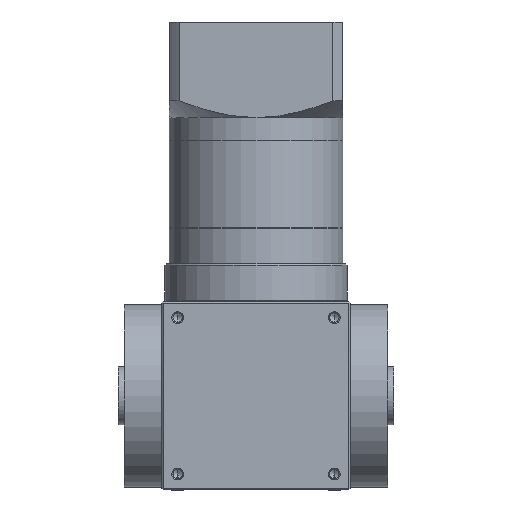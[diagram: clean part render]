
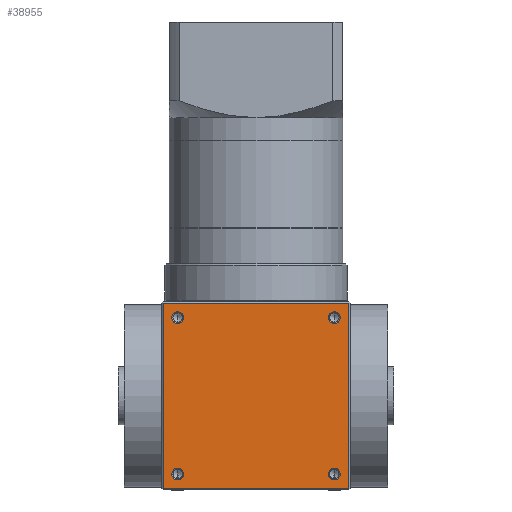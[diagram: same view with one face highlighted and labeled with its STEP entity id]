
A CAD part, front view. The second image highlights one B-rep face of the part: STEP entity #38955.
In plain terms, the highlighted planar face has unit normal (0, -1, 0).
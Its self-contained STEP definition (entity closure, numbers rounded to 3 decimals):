
#301 = DIRECTION ( 'NONE',  ( 0., -1., 0. ) ) ;
#350 = AXIS2_PLACEMENT_3D ( 'NONE', #36476, #10524, #40832 ) ;
#1182 = AXIS2_PLACEMENT_3D ( 'NONE', #26126, #301, #30535 ) ;
#2743 = CARTESIAN_POINT ( 'NONE',  ( 27., -32.5, 5.5 ) ) ;
#3963 = FACE_BOUND ( 'NONE', #46195, .T. ) ;
#4203 = VECTOR ( 'NONE', #51095, 1000. ) ;
#4564 = CARTESIAN_POINT ( 'NONE',  ( -27., -32.5, 59.5 ) ) ;
#4984 = CARTESIAN_POINT ( 'NONE',  ( 32., -32.5, 64.5 ) ) ;
#5966 = ORIENTED_EDGE ( 'NONE', *, *, #50379, .F. ) ;
#6260 = LINE ( 'NONE', #18508, #46272 ) ;
#6517 = CIRCLE ( 'NONE', #41210, 2.025 ) ;
#7045 = DIRECTION ( 'NONE',  ( 0., 0., -1. ) ) ;
#7171 = AXIS2_PLACEMENT_3D ( 'NONE', #43076, #17044, #47515 ) ;
#7705 = ORIENTED_EDGE ( 'NONE', *, *, #13158, .F. ) ;
#7761 = EDGE_CURVE ( 'NONE', #41068, #8871, #44101, .T. ) ;
#8249 = CARTESIAN_POINT ( 'NONE',  ( -32., -32.5, 65. ) ) ;
#8851 = DIRECTION ( 'NONE',  ( 0., 0., -1. ) ) ;
#8871 = VERTEX_POINT ( 'NONE', #55211 ) ;
#9305 = ORIENTED_EDGE ( 'NONE', *, *, #15340, .F. ) ;
#10107 = EDGE_LOOP ( 'NONE', ( #51170, #51978 ) ) ;
#10524 = DIRECTION ( 'NONE',  ( 0., -1., 0. ) ) ;
#10783 = CARTESIAN_POINT ( 'NONE',  ( -27., -32.5, 61.525 ) ) ;
#12350 = EDGE_CURVE ( 'NONE', #19725, #55083, #22620, .T. ) ;
#13158 = EDGE_CURVE ( 'NONE', #23817, #23868, #25225, .T. ) ;
#13569 = CARTESIAN_POINT ( 'NONE',  ( -32., -32.5, 64.5 ) ) ;
#14539 = DIRECTION ( 'NONE',  ( 0., -1., 0. ) ) ;
#14599 = CARTESIAN_POINT ( 'NONE',  ( -27., -32.5, 57.475 ) ) ;
#15340 = EDGE_CURVE ( 'NONE', #55083, #19725, #54345, .T. ) ;
#15367 = FACE_BOUND ( 'NONE', #25655, .T. ) ;
#15615 = LINE ( 'NONE', #20986, #4203 ) ;
#16238 = DIRECTION ( 'NONE',  ( 0., 1., 0. ) ) ;
#17044 = DIRECTION ( 'NONE',  ( 0., -1., 0. ) ) ;
#17176 = VERTEX_POINT ( 'NONE', #4984 ) ;
#17262 = CARTESIAN_POINT ( 'NONE',  ( -32.5, -32.5, 64.5 ) ) ;
#17894 = DIRECTION ( 'NONE',  ( 0., -1., 0. ) ) ;
#18291 = VERTEX_POINT ( 'NONE', #14599 ) ;
#18508 = CARTESIAN_POINT ( 'NONE',  ( 32., -32.5, 65. ) ) ;
#18694 = DIRECTION ( 'NONE',  ( 0., 0., -1. ) ) ;
#19287 = EDGE_CURVE ( 'NONE', #24030, #18291, #6517, .T. ) ;
#19725 = VERTEX_POINT ( 'NONE', #50139 ) ;
#19764 = ORIENTED_EDGE ( 'NONE', *, *, #19287, .F. ) ;
#20986 = CARTESIAN_POINT ( 'NONE',  ( -32.5, -32.5, 0.5 ) ) ;
#22620 = CIRCLE ( 'NONE', #350, 2.025 ) ;
#22977 = CARTESIAN_POINT ( 'NONE',  ( -27., -32.5, 3.475 ) ) ;
#23022 = VERTEX_POINT ( 'NONE', #32496 ) ;
#23817 = VERTEX_POINT ( 'NONE', #35008 ) ;
#23868 = VERTEX_POINT ( 'NONE', #13569 ) ;
#24030 = VERTEX_POINT ( 'NONE', #10783 ) ;
#24156 = CARTESIAN_POINT ( 'NONE',  ( -27., -32.5, 59.5 ) ) ;
#25225 = LINE ( 'NONE', #8249, #35425 ) ;
#25655 = EDGE_LOOP ( 'NONE', ( #49057, #37165 ) ) ;
#26126 = CARTESIAN_POINT ( 'NONE',  ( -27., -32.5, 5.5 ) ) ;
#26703 = CARTESIAN_POINT ( 'NONE',  ( 27., -32.5, 57.475 ) ) ;
#26825 = FACE_BOUND ( 'NONE', #55160, .T. ) ;
#26897 = CARTESIAN_POINT ( 'NONE',  ( 32., -32.5, 0.5 ) ) ;
#27016 = VECTOR ( 'NONE', #43310, 1000. ) ;
#27138 = AXIS2_PLACEMENT_3D ( 'NONE', #40528, #14539, #44935 ) ;
#28547 = DIRECTION ( 'NONE',  ( 0., 0., -1. ) ) ;
#29154 = PLANE ( 'NONE',  #30046 ) ;
#29508 = CIRCLE ( 'NONE', #27138, 2.025 ) ;
#30046 = AXIS2_PLACEMENT_3D ( 'NONE', #55232, #16238, #46688 ) ;
#30535 = DIRECTION ( 'NONE',  ( 0., 0., -1. ) ) ;
#30607 = ORIENTED_EDGE ( 'NONE', *, *, #46668, .F. ) ;
#32496 = CARTESIAN_POINT ( 'NONE',  ( 27., -32.5, 3.475 ) ) ;
#32934 = DIRECTION ( 'NONE',  ( 0., -1., 0. ) ) ;
#33711 = CARTESIAN_POINT ( 'NONE',  ( 27., -32.5, 7.525 ) ) ;
#33841 = EDGE_CURVE ( 'NONE', #23022, #38327, #33927, .T. ) ;
#33858 = ORIENTED_EDGE ( 'NONE', *, *, #34569, .F. ) ;
#33927 = CIRCLE ( 'NONE', #49629, 2.025 ) ;
#33979 = EDGE_CURVE ( 'NONE', #49843, #23817, #15615, .T. ) ;
#34569 = EDGE_CURVE ( 'NONE', #23868, #17176, #48909, .T. ) ;
#34772 = DIRECTION ( 'NONE',  ( 0., -1., 0. ) ) ;
#35008 = CARTESIAN_POINT ( 'NONE',  ( -32., -32.5, 0.5 ) ) ;
#35425 = VECTOR ( 'NONE', #55894, 1000. ) ;
#35995 = AXIS2_PLACEMENT_3D ( 'NONE', #24156, #54637, #28547 ) ;
#36476 = CARTESIAN_POINT ( 'NONE',  ( -27., -32.5, 5.5 ) ) ;
#37165 = ORIENTED_EDGE ( 'NONE', *, *, #54640, .F. ) ;
#38327 = VERTEX_POINT ( 'NONE', #33711 ) ;
#38955 = ADVANCED_FACE ( 'NONE', ( #26825, #15367, #50130, #3963, #48714 ), #29154, .F. ) ;
#40209 = ORIENTED_EDGE ( 'NONE', *, *, #12350, .F. ) ;
#40528 = CARTESIAN_POINT ( 'NONE',  ( 27., -32.5, 59.5 ) ) ;
#40832 = DIRECTION ( 'NONE',  ( 0., 0., -1. ) ) ;
#41068 = VERTEX_POINT ( 'NONE', #26703 ) ;
#41210 = AXIS2_PLACEMENT_3D ( 'NONE', #4564, #34772, #8851 ) ;
#42064 = CIRCLE ( 'NONE', #7171, 2.025 ) ;
#43076 = CARTESIAN_POINT ( 'NONE',  ( 27., -32.5, 5.5 ) ) ;
#43310 = DIRECTION ( 'NONE',  ( 1., 0., 0. ) ) ;
#43688 = ORIENTED_EDGE ( 'NONE', *, *, #33979, .F. ) ;
#43937 = CARTESIAN_POINT ( 'NONE',  ( 27., -32.5, 59.5 ) ) ;
#44101 = CIRCLE ( 'NONE', #52192, 2.025 ) ;
#44935 = DIRECTION ( 'NONE',  ( 0., 0., -1. ) ) ;
#46195 = EDGE_LOOP ( 'NONE', ( #9305, #40209 ) ) ;
#46272 = VECTOR ( 'NONE', #18694, 1000. ) ;
#46668 = EDGE_CURVE ( 'NONE', #18291, #24030, #52176, .T. ) ;
#46688 = DIRECTION ( 'NONE',  ( 0., 0., 1. ) ) ;
#47515 = DIRECTION ( 'NONE',  ( 0., 0., -1. ) ) ;
#48397 = DIRECTION ( 'NONE',  ( 0., 0., -1. ) ) ;
#48714 = FACE_OUTER_BOUND ( 'NONE', #53753, .T. ) ;
#48909 = LINE ( 'NONE', #17262, #27016 ) ;
#49057 = ORIENTED_EDGE ( 'NONE', *, *, #7761, .F. ) ;
#49629 = AXIS2_PLACEMENT_3D ( 'NONE', #2743, #32934, #7045 ) ;
#49843 = VERTEX_POINT ( 'NONE', #26897 ) ;
#50130 = FACE_BOUND ( 'NONE', #10107, .T. ) ;
#50139 = CARTESIAN_POINT ( 'NONE',  ( -27., -32.5, 7.525 ) ) ;
#50379 = EDGE_CURVE ( 'NONE', #17176, #49843, #6260, .T. ) ;
#51016 = EDGE_CURVE ( 'NONE', #38327, #23022, #42064, .T. ) ;
#51095 = DIRECTION ( 'NONE',  ( -1., 0., 0. ) ) ;
#51170 = ORIENTED_EDGE ( 'NONE', *, *, #33841, .F. ) ;
#51978 = ORIENTED_EDGE ( 'NONE', *, *, #51016, .F. ) ;
#52176 = CIRCLE ( 'NONE', #35995, 2.025 ) ;
#52192 = AXIS2_PLACEMENT_3D ( 'NONE', #43937, #17894, #48397 ) ;
#53753 = EDGE_LOOP ( 'NONE', ( #33858, #7705, #43688, #5966 ) ) ;
#54345 = CIRCLE ( 'NONE', #1182, 2.025 ) ;
#54637 = DIRECTION ( 'NONE',  ( 0., -1., 0. ) ) ;
#54640 = EDGE_CURVE ( 'NONE', #8871, #41068, #29508, .T. ) ;
#55083 = VERTEX_POINT ( 'NONE', #22977 ) ;
#55160 = EDGE_LOOP ( 'NONE', ( #30607, #19764 ) ) ;
#55211 = CARTESIAN_POINT ( 'NONE',  ( 27., -32.5, 61.525 ) ) ;
#55232 = CARTESIAN_POINT ( 'NONE',  ( -32.5, -32.5, 65. ) ) ;
#55894 = DIRECTION ( 'NONE',  ( 0., 0., 1. ) ) ;
